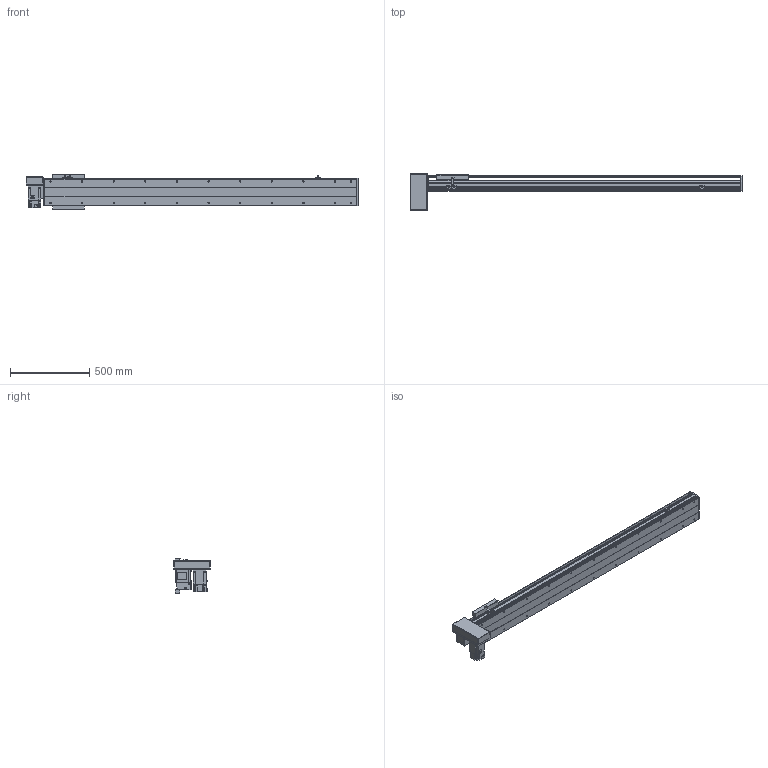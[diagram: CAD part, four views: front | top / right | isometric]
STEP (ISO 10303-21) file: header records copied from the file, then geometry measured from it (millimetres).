
FILE_DESCRIPTION(/* description */ ('STEP AP214'),/* implementation_level */ '2;1');
FILE_NAME(/* name */ 'PBS200-P40-S1600-RD-T75-C1-N(0)',/* time_stamp */ '2022-06-11T09:30:07+02:00',/* author */ ('License CC BY-ND 4.0'),/* organization */ ('CADENAS'),/* preprocessor_version */ 'ST-DEVELOPER v18.102',/* originating_system */ 'PARTsolutions',/* authorisation */ ' ');
FILE_SCHEMA (('AUTOMOTIVE_DESIGN {1 0 10303 214 3 1 1}'));
Length unit declared in the file: millimetre
Products named in the file (7): PBS200-P40-S1600-RD-T75-C1-N(0); PBS200_sensor; PBS200_plant; PBS200_sliser; T75-p1; PBS200T-RD_motors; PBS200-S1600()_body
Assembly tree (8 placements, depth 2):
  PBS200-P40-S1600-RD-T75-C1-N(0)
    PBS200_sensor  x3
    PBS200_plant
    PBS200_sliser
    T75-p1
    PBS200T-RD_motors
    PBS200-S1600()_body
Bounding box: 2100 x 230 x 221 mm (x, y, z)
Volume: 14983798.4 mm3; surface area: 2410350.9 mm2
Topology: 8 solids, 8 shells, 938 faces, 2404 edges, 1566 vertices
Faces by surface type: plane 580, cylinder 304, cone 54
Full cylindrical faces by diameter (mm): 2.459 x6, 3.242 x4, 4.5 x6, 4.917 x4, 5 x6, 6 x7, 6.6 x8, 6.647 x26, 8 x6, 10 x4, 12 x8, 38 x2, 40 x1, 70 x1
Entity records: 24941 total; most frequent: DIRECTION 4399, CARTESIAN_POINT 4246, ORIENTED_EDGE 4018, EDGE_CURVE 2009, AXIS2_PLACEMENT_3D 1543, VERTEX_POINT 1390, LINE 1313, VECTOR 1313
